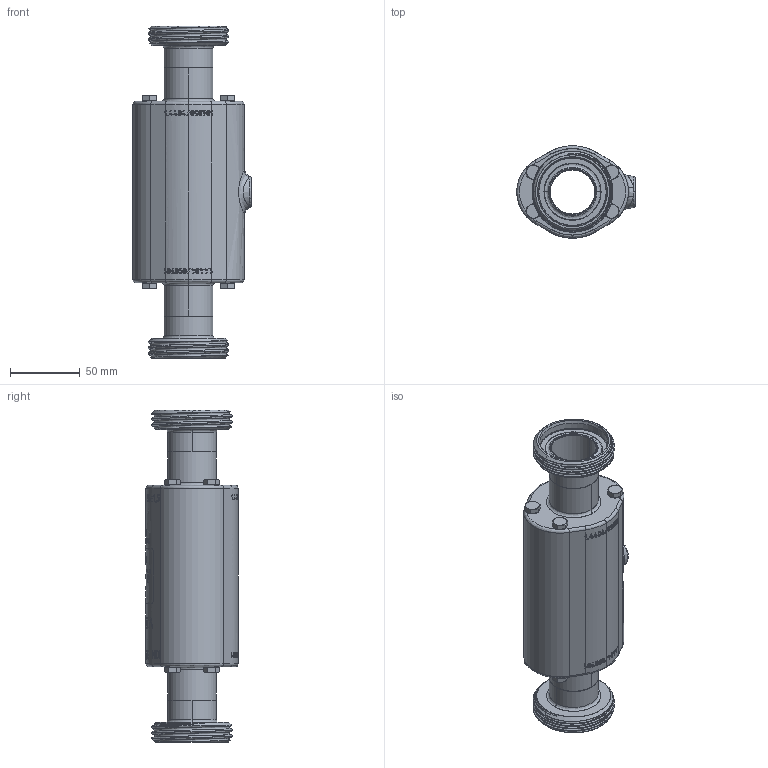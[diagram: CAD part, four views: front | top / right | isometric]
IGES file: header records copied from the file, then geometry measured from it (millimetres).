
Start section: SolidWorks IGES file using analytic representation for surfaces
Global section: file name: L:\SolidWorks_daten\Zeichnungen\AKO\Ventile\Fuer Extern\Traceparts\VMC\DN32\VMC32xx50RM50_EV.IGS; native system: SolidWorks 2015; preprocessor: SolidWorks 2015; author: j.greif; date: 150227.084340; units: millimetre
Bounding box: 85 x 66 x 238 mm (x, y, z)
Surface area: 84573.3 mm2 (no closed solid volume)
Topology: 0 solids, 0 shells, 2151 faces, 30921 edges, 30921 vertices
Faces by surface type: bspline 1858, revolution 293
